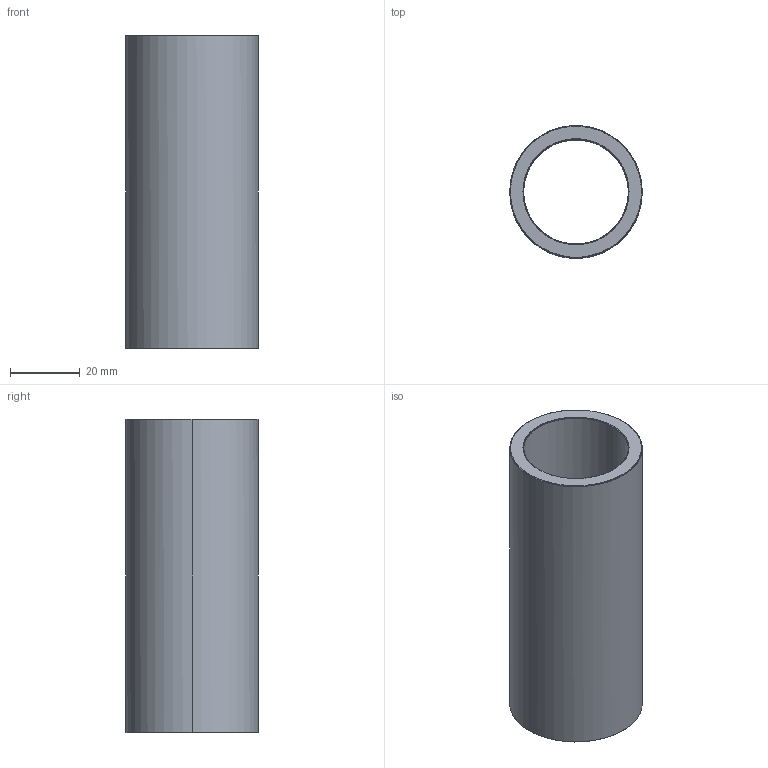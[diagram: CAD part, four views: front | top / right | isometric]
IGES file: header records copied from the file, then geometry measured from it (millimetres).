
Start section: Write IGES format                                    datakit 2008 (c)
Global section: file name: Unknown; native system: DATAKIT Converter; preprocessor: Unknown; author: Unknown; organization: Unknown; date: 950613.180003; units: millimetre
Bounding box: 38 x 37.91 x 90 mm (x, y, z)
Surface area: 20031 mm2 (no closed solid volume)
Topology: 0 solids, 0 shells, 14 faces, 56 edges, 56 vertices
Faces by surface type: revolution 12, bspline 2
